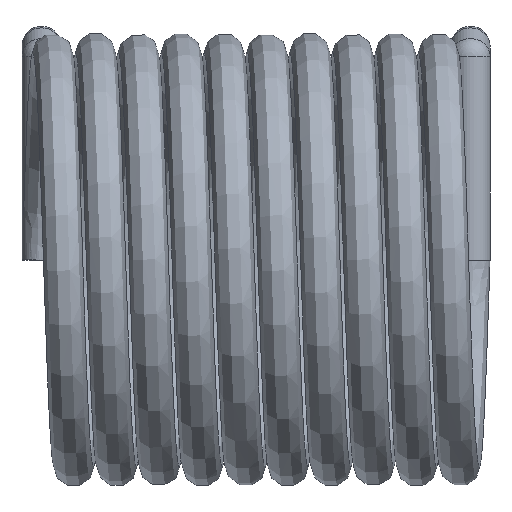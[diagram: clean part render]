
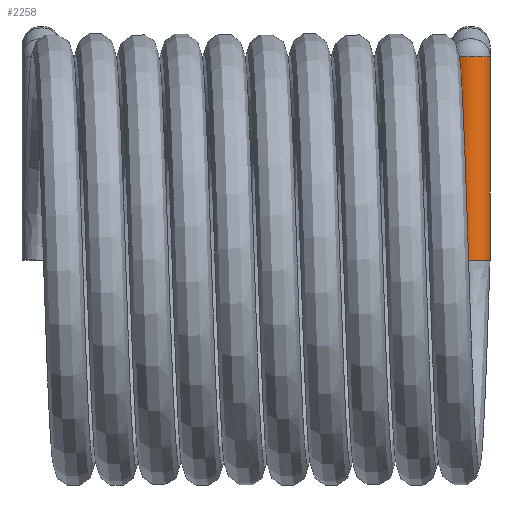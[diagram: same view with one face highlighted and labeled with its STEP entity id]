
A CAD part, top view. The second image highlights one B-rep face of the part: STEP entity #2258.
In plain terms, the highlighted cylindrical face has radius 0.55 mm (diameter 1.1 mm), a full revolution.
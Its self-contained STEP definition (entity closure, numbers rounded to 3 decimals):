
#1893 = CYLINDRICAL_SURFACE('',#1894,0.55);
#1894 = AXIS2_PLACEMENT_3D('',#1895,#1896,#1897);
#1895 = CARTESIAN_POINT('',(6.,6.,0.8));
#1896 = DIRECTION('',(0.,-0.394,0.919));
#1897 = DIRECTION('',(0.,0.919,0.394));
#2043 = VERTEX_POINT('',#2044);
#2044 = CARTESIAN_POINT('',(5.45,5.7,1.5));
#2059 = SPHERICAL_SURFACE('',#2060,0.55);
#2060 = AXIS2_PLACEMENT_3D('',#2061,#2062,#2063);
#2061 = CARTESIAN_POINT('',(6.,5.7,1.5));
#2062 = DIRECTION('',(0.,0.,1.));
#2063 = DIRECTION('',(1.,0.,-0.));
#2106 = VERTEX_POINT('',#2107);
#2107 = CARTESIAN_POINT('',(6.55,5.7,1.5));
#2138 = EDGE_CURVE('',#2139,#2106,#2141,.T.);
#2139 = VERTEX_POINT('',#2140);
#2140 = CARTESIAN_POINT('',(6.,5.337,0.95));
#2141 = SURFACE_CURVE('',#2142,(#2147,#2159),.PCURVE_S1.);
#2142 = ELLIPSE('',#2143,0.659,0.55);
#2143 = AXIS2_PLACEMENT_3D('',#2144,#2145,#2146);
#2144 = CARTESIAN_POINT('',(6.,5.7,1.5));
#2145 = DIRECTION('',(0.,-0.835,0.55));
#2146 = DIRECTION('',(0.,0.55,0.835));
#2147 = PCURVE('',#1893,#2148);
#2148 = DEFINITIONAL_REPRESENTATION('',(#2149),#2158);
#2149 = B_SPLINE_CURVE_WITH_KNOTS('',7,(#2150,#2151,#2152,#2153,#2154,
    #2155,#2156,#2157),.UNSPECIFIED.,.F.,.F.,(8,8),(3.142,
    4.712),.PIECEWISE_BEZIER_KNOTS.);
#2150 = CARTESIAN_POINT('',(3.142,0.399));
#2151 = CARTESIAN_POINT('',(3.366,0.399));
#2152 = CARTESIAN_POINT('',(3.59,0.42));
#2153 = CARTESIAN_POINT('',(3.815,0.463));
#2154 = CARTESIAN_POINT('',(4.039,0.524));
#2155 = CARTESIAN_POINT('',(4.264,0.599));
#2156 = CARTESIAN_POINT('',(4.488,0.68));
#2157 = CARTESIAN_POINT('',(4.712,0.762));
#2158 = ( GEOMETRIC_REPRESENTATION_CONTEXT(2) 
PARAMETRIC_REPRESENTATION_CONTEXT() REPRESENTATION_CONTEXT('2D SPACE',''
  ) );
#2159 = PCURVE('',#2160,#2165);
#2160 = CYLINDRICAL_SURFACE('',#2161,0.55);
#2161 = AXIS2_PLACEMENT_3D('',#2162,#2163,#2164);
#2162 = CARTESIAN_POINT('',(6.,5.7,1.5));
#2163 = DIRECTION('',(0.,-1.,0.));
#2164 = DIRECTION('',(0.,-0.,-1.));
#2165 = DEFINITIONAL_REPRESENTATION('',(#2166),#2175);
#2166 = B_SPLINE_CURVE_WITH_KNOTS('',7,(#2167,#2168,#2169,#2170,#2171,
    #2172,#2173,#2174),.UNSPECIFIED.,.F.,.F.,(8,8),(3.142,
    4.712),.PIECEWISE_BEZIER_KNOTS.);
#2167 = CARTESIAN_POINT('',(0.,0.363));
#2168 = CARTESIAN_POINT('',(0.224,0.363));
#2169 = CARTESIAN_POINT('',(0.449,0.341));
#2170 = CARTESIAN_POINT('',(0.673,0.299));
#2171 = CARTESIAN_POINT('',(0.898,0.237));
#2172 = CARTESIAN_POINT('',(1.122,0.163));
#2173 = CARTESIAN_POINT('',(1.346,0.081));
#2174 = CARTESIAN_POINT('',(1.571,0.));
#2175 = ( GEOMETRIC_REPRESENTATION_CONTEXT(2) 
PARAMETRIC_REPRESENTATION_CONTEXT() REPRESENTATION_CONTEXT('2D SPACE',''
  ) );
#2177 = EDGE_CURVE('',#2043,#2139,#2178,.T.);
#2178 = SURFACE_CURVE('',#2179,(#2184,#2196),.PCURVE_S1.);
#2179 = ELLIPSE('',#2180,0.659,0.55);
#2180 = AXIS2_PLACEMENT_3D('',#2181,#2182,#2183);
#2181 = CARTESIAN_POINT('',(6.,5.7,1.5));
#2182 = DIRECTION('',(0.,-0.835,0.55));
#2183 = DIRECTION('',(0.,0.55,0.835));
#2184 = PCURVE('',#1893,#2185);
#2185 = DEFINITIONAL_REPRESENTATION('',(#2186),#2195);
#2186 = B_SPLINE_CURVE_WITH_KNOTS('',7,(#2187,#2188,#2189,#2190,#2191,
    #2192,#2193,#2194),.UNSPECIFIED.,.F.,.F.,(8,8),(1.571,
    3.142),.PIECEWISE_BEZIER_KNOTS.);
#2187 = CARTESIAN_POINT('',(1.571,0.762));
#2188 = CARTESIAN_POINT('',(1.795,0.68));
#2189 = CARTESIAN_POINT('',(2.02,0.599));
#2190 = CARTESIAN_POINT('',(2.244,0.524));
#2191 = CARTESIAN_POINT('',(2.468,0.463));
#2192 = CARTESIAN_POINT('',(2.693,0.42));
#2193 = CARTESIAN_POINT('',(2.917,0.399));
#2194 = CARTESIAN_POINT('',(3.142,0.399));
#2195 = ( GEOMETRIC_REPRESENTATION_CONTEXT(2) 
PARAMETRIC_REPRESENTATION_CONTEXT() REPRESENTATION_CONTEXT('2D SPACE',''
  ) );
#2196 = PCURVE('',#2160,#2197);
#2197 = DEFINITIONAL_REPRESENTATION('',(#2198),#2207);
#2198 = B_SPLINE_CURVE_WITH_KNOTS('',7,(#2199,#2200,#2201,#2202,#2203,
    #2204,#2205,#2206),.UNSPECIFIED.,.F.,.F.,(8,8),(1.571,
    3.142),.PIECEWISE_BEZIER_KNOTS.);
#2199 = CARTESIAN_POINT('',(4.712,0.));
#2200 = CARTESIAN_POINT('',(4.937,0.081));
#2201 = CARTESIAN_POINT('',(5.161,0.163));
#2202 = CARTESIAN_POINT('',(5.386,0.237));
#2203 = CARTESIAN_POINT('',(5.61,0.299));
#2204 = CARTESIAN_POINT('',(5.834,0.341));
#2205 = CARTESIAN_POINT('',(6.059,0.363));
#2206 = CARTESIAN_POINT('',(6.283,0.363));
#2207 = ( GEOMETRIC_REPRESENTATION_CONTEXT(2) 
PARAMETRIC_REPRESENTATION_CONTEXT() REPRESENTATION_CONTEXT('2D SPACE',''
  ) );
#2212 = EDGE_CURVE('',#2213,#2043,#2215,.T.);
#2213 = VERTEX_POINT('',#2214);
#2214 = CARTESIAN_POINT('',(6.,5.7,2.05));
#2215 = SURFACE_CURVE('',#2216,(#2221,#2228),.PCURVE_S1.);
#2216 = CIRCLE('',#2217,0.55);
#2217 = AXIS2_PLACEMENT_3D('',#2218,#2219,#2220);
#2218 = CARTESIAN_POINT('',(6.,5.7,1.5));
#2219 = DIRECTION('',(0.,-1.,0.));
#2220 = DIRECTION('',(0.,-0.,-1.));
#2221 = PCURVE('',#2059,#2222);
#2222 = DEFINITIONAL_REPRESENTATION('',(#2223),#2227);
#2223 = LINE('',#2224,#2225);
#2224 = CARTESIAN_POINT('',(3.142,4.712));
#2225 = VECTOR('',#2226,1.);
#2226 = DIRECTION('',(0.,-1.));
#2227 = ( GEOMETRIC_REPRESENTATION_CONTEXT(2) 
PARAMETRIC_REPRESENTATION_CONTEXT() REPRESENTATION_CONTEXT('2D SPACE',''
  ) );
#2228 = PCURVE('',#2160,#2229);
#2229 = DEFINITIONAL_REPRESENTATION('',(#2230),#2234);
#2230 = LINE('',#2231,#2232);
#2231 = CARTESIAN_POINT('',(0.,0.));
#2232 = VECTOR('',#2233,1.);
#2233 = DIRECTION('',(1.,0.));
#2234 = ( GEOMETRIC_REPRESENTATION_CONTEXT(2) 
PARAMETRIC_REPRESENTATION_CONTEXT() REPRESENTATION_CONTEXT('2D SPACE',''
  ) );
#2236 = EDGE_CURVE('',#2106,#2213,#2237,.T.);
#2237 = SURFACE_CURVE('',#2238,(#2243,#2249),.PCURVE_S1.);
#2238 = CIRCLE('',#2239,0.55);
#2239 = AXIS2_PLACEMENT_3D('',#2240,#2241,#2242);
#2240 = CARTESIAN_POINT('',(6.,5.7,1.5));
#2241 = DIRECTION('',(0.,-1.,0.));
#2242 = DIRECTION('',(0.,-0.,-1.));
#2243 = PCURVE('',#2059,#2244);
#2244 = DEFINITIONAL_REPRESENTATION('',(#2245),#2248);
#2245 = B_SPLINE_CURVE_WITH_KNOTS('',1,(#2246,#2247),.UNSPECIFIED.,.F.,
  .F.,(2,2),(1.571,3.142),.PIECEWISE_BEZIER_KNOTS.);
#2246 = CARTESIAN_POINT('',(0.,0.));
#2247 = CARTESIAN_POINT('',(0.,1.571));
#2248 = ( GEOMETRIC_REPRESENTATION_CONTEXT(2) 
PARAMETRIC_REPRESENTATION_CONTEXT() REPRESENTATION_CONTEXT('2D SPACE',''
  ) );
#2249 = PCURVE('',#2160,#2250);
#2250 = DEFINITIONAL_REPRESENTATION('',(#2251),#2255);
#2251 = LINE('',#2252,#2253);
#2252 = CARTESIAN_POINT('',(0.,0.));
#2253 = VECTOR('',#2254,1.);
#2254 = DIRECTION('',(1.,0.));
#2255 = ( GEOMETRIC_REPRESENTATION_CONTEXT(2) 
PARAMETRIC_REPRESENTATION_CONTEXT() REPRESENTATION_CONTEXT('2D SPACE',''
  ) );
#2258 = ADVANCED_FACE('',(#2259),#2160,.T.);
#2259 = FACE_BOUND('',#2260,.T.);
#2260 = EDGE_LOOP('',(#2261,#2262,#2285,#2312,#2313,#2314,#2315));
#2261 = ORIENTED_EDGE('',*,*,#2177,.T.);
#2262 = ORIENTED_EDGE('',*,*,#2263,.T.);
#2263 = EDGE_CURVE('',#2139,#2264,#2266,.T.);
#2264 = VERTEX_POINT('',#2265);
#2265 = CARTESIAN_POINT('',(6.,0.,0.95));
#2266 = SEAM_CURVE('',#2267,(#2271,#2278),.PCURVE_S1.);
#2267 = LINE('',#2268,#2269);
#2268 = CARTESIAN_POINT('',(6.,5.7,0.95));
#2269 = VECTOR('',#2270,1.);
#2270 = DIRECTION('',(0.,-1.,0.));
#2271 = PCURVE('',#2160,#2272);
#2272 = DEFINITIONAL_REPRESENTATION('',(#2273),#2277);
#2273 = LINE('',#2274,#2275);
#2274 = CARTESIAN_POINT('',(0.,-0.));
#2275 = VECTOR('',#2276,1.);
#2276 = DIRECTION('',(0.,1.));
#2277 = ( GEOMETRIC_REPRESENTATION_CONTEXT(2) 
PARAMETRIC_REPRESENTATION_CONTEXT() REPRESENTATION_CONTEXT('2D SPACE',''
  ) );
#2278 = PCURVE('',#2160,#2279);
#2279 = DEFINITIONAL_REPRESENTATION('',(#2280),#2284);
#2280 = LINE('',#2281,#2282);
#2281 = CARTESIAN_POINT('',(6.283,-0.));
#2282 = VECTOR('',#2283,1.);
#2283 = DIRECTION('',(0.,1.));
#2284 = ( GEOMETRIC_REPRESENTATION_CONTEXT(2) 
PARAMETRIC_REPRESENTATION_CONTEXT() REPRESENTATION_CONTEXT('2D SPACE',''
  ) );
#2285 = ORIENTED_EDGE('',*,*,#2286,.F.);
#2286 = EDGE_CURVE('',#2264,#2264,#2287,.T.);
#2287 = SURFACE_CURVE('',#2288,(#2293,#2300),.PCURVE_S1.);
#2288 = CIRCLE('',#2289,0.55);
#2289 = AXIS2_PLACEMENT_3D('',#2290,#2291,#2292);
#2290 = CARTESIAN_POINT('',(6.,0.,1.5));
#2291 = DIRECTION('',(0.,-1.,0.));
#2292 = DIRECTION('',(0.,-0.,-1.));
#2293 = PCURVE('',#2160,#2294);
#2294 = DEFINITIONAL_REPRESENTATION('',(#2295),#2299);
#2295 = LINE('',#2296,#2297);
#2296 = CARTESIAN_POINT('',(0.,5.7));
#2297 = VECTOR('',#2298,1.);
#2298 = DIRECTION('',(1.,0.));
#2299 = ( GEOMETRIC_REPRESENTATION_CONTEXT(2) 
PARAMETRIC_REPRESENTATION_CONTEXT() REPRESENTATION_CONTEXT('2D SPACE',''
  ) );
#2300 = PCURVE('',#2301,#2306);
#2301 = PLANE('',#2302);
#2302 = AXIS2_PLACEMENT_3D('',#2303,#2304,#2305);
#2303 = CARTESIAN_POINT('',(6.,0.,1.5));
#2304 = DIRECTION('',(0.,-1.,0.));
#2305 = DIRECTION('',(0.,-0.,-1.));
#2306 = DEFINITIONAL_REPRESENTATION('',(#2307),#2311);
#2307 = CIRCLE('',#2308,0.55);
#2308 = AXIS2_PLACEMENT_2D('',#2309,#2310);
#2309 = CARTESIAN_POINT('',(0.,0.));
#2310 = DIRECTION('',(1.,0.));
#2311 = ( GEOMETRIC_REPRESENTATION_CONTEXT(2) 
PARAMETRIC_REPRESENTATION_CONTEXT() REPRESENTATION_CONTEXT('2D SPACE',''
  ) );
#2312 = ORIENTED_EDGE('',*,*,#2263,.F.);
#2313 = ORIENTED_EDGE('',*,*,#2138,.T.);
#2314 = ORIENTED_EDGE('',*,*,#2236,.T.);
#2315 = ORIENTED_EDGE('',*,*,#2212,.T.);
